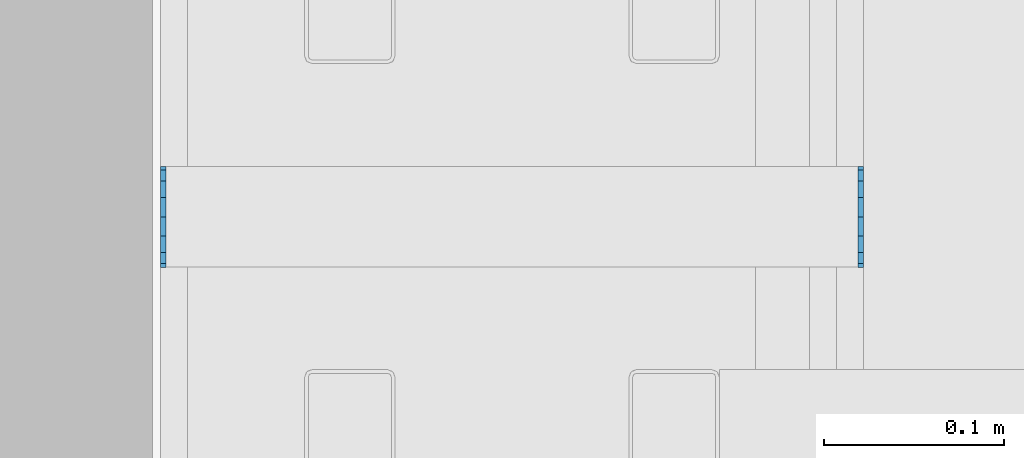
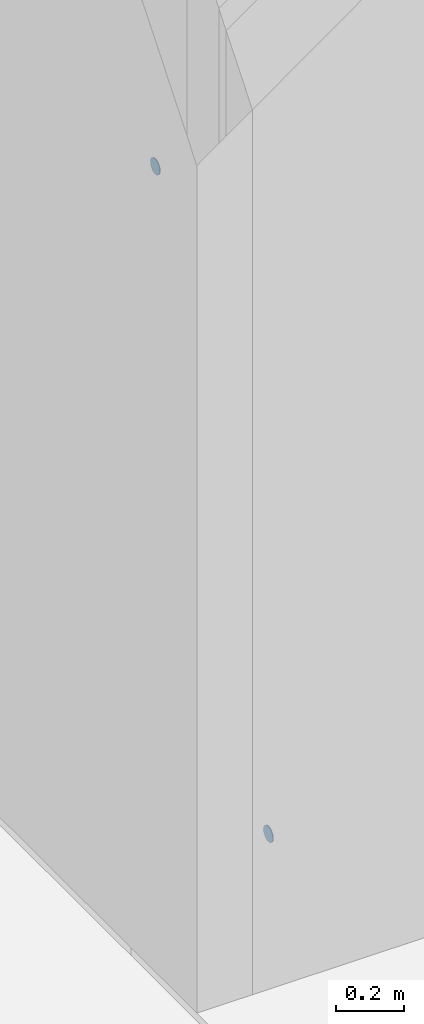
# One storey, part 40 of 230: 2 beams.
"""IFC4X3_ADD2 building model written with IfcOpenShell, lengths in millimetres."""

from ifc_helpers import new_model, si_unit, direction, frame, origin_with_axes, place, context, subcontext, project, spatial, indexed_curve, outline, extrude, material, element, save


model = new_model("IFC4X3_ADD2")

# Units and contexts
model_context = context("Model", 3, precision=1e-05, world=origin_with_axes(), true_north=direction((0.0, 1.0)))
body_context = subcontext(model_context, "Body", "Model", "MODEL_VIEW")
ifc_project = project(units=[si_unit("LENGTHUNIT", "METRE", prefix="MILLI"), si_unit("AREAUNIT", "SQUARE_METRE"), si_unit("VOLUMEUNIT", "CUBIC_METRE"), si_unit("PLANEANGLEUNIT", "RADIAN"), si_unit("TIMEUNIT", "SECOND"), si_unit("MASSUNIT", "GRAM")], contexts=[model_context])

# Site, building, storey
site_placement = place(None, origin_with_axes())
site = spatial("IfcSite", under=ifc_project, at=site_placement, Name="Site", CompositionType="ELEMENT")
building_placement = place(site_placement, origin_with_axes())
building = spatial("IfcBuilding", under=site, at=building_placement, Name="IFC Building Story")
storey_placement = place(building_placement, origin_with_axes())
storey = spatial("IfcBuildingStorey", under=building, at=storey_placement, Name="ETAGE 00 (0)", Elevation=0.0)

# Beams
ifc_material = material(Name="STEEL/Accessory 22919")
beam_1_placement = place(storey_placement, frame((33596.188, 7324.838, 89.99999999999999), z_axis=(-1.0, 0.0, 0.0), x_axis=(0.0, 0.5555702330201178, 0.8314696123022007)))
element("IfcBeam", 1, at=beam_1_placement, inside=storey, material=ifc_material, Name="TA4", ObjectType="D56", context=body_context, shape_type="SweptSolid", body=[
    extrude(outline(indexed_curve([(23.28114914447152, 15.55596652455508), (27.46198785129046, 5.462529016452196), (27.46198785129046, -5.462529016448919), (23.28114914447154, -15.55596652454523), (15.55596652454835, -23.28114914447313), (5.462529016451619, -27.46198785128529), (-5.462529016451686, -27.46198785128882), (-15.55596652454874, -23.28114914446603), (-23.2811491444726, -15.55596652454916), (-27.46198785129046, -5.462529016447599), (-27.46198785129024, 5.462529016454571), (-23.28114914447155, 15.55596652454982), (-15.55596652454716, 23.28114914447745), (-5.462529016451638, 27.46198785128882), (5.462529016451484, 27.46198785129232), (15.55596652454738, 23.28114914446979), (23.28114914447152, 15.55596652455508)])), origin_with_axes(), (0.0, 0.0, 1.0), 3.0),
])
beam_2_placement = place(storey_placement, frame((33209.18799999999, 7324.838, 2640.0), z_axis=(-1.0, 0.0, 0.0), x_axis=(0.0, 0.1950903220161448, 0.9807852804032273)))
element("IfcBeam", 2, at=beam_2_placement, inside=storey, material=ifc_material, Name="TA4", ObjectType="D56", context=body_context, shape_type="SweptSolid", body=[
    extrude(outline(indexed_curve([(23.28114914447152, 15.55596652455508), (27.46198785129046, 5.462529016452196), (27.46198785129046, -5.462529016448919), (23.28114914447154, -15.55596652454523), (15.55596652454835, -23.28114914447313), (5.462529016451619, -27.46198785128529), (-5.462529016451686, -27.46198785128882), (-15.55596652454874, -23.28114914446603), (-23.2811491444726, -15.55596652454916), (-27.46198785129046, -5.462529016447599), (-27.46198785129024, 5.462529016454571), (-23.28114914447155, 15.55596652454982), (-15.55596652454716, 23.28114914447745), (-5.462529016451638, 27.46198785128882), (5.462529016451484, 27.46198785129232), (15.55596652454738, 23.28114914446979), (23.28114914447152, 15.55596652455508)])), origin_with_axes(), (0.0, 0.0, 1.0), 2.999999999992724),
])

save(model, "model.ifc")
